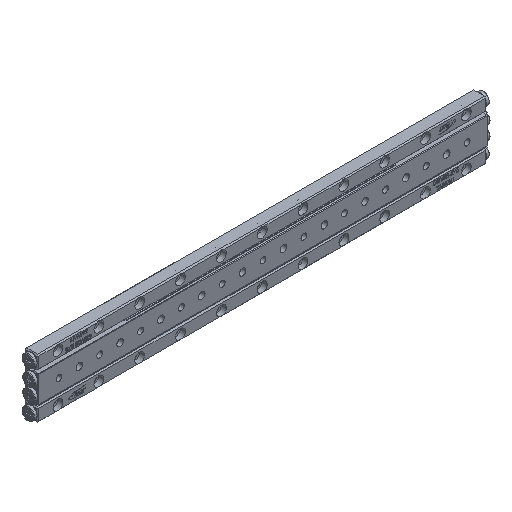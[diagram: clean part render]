
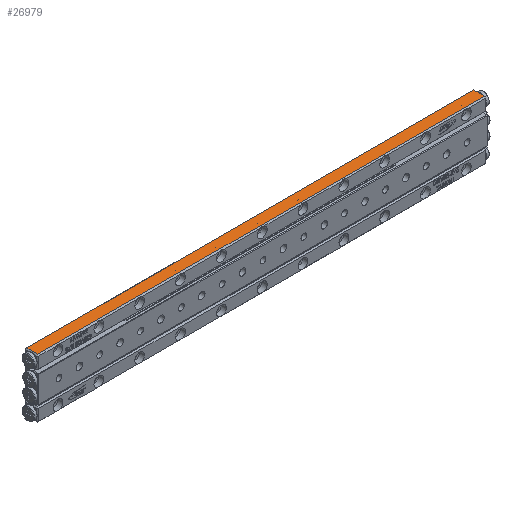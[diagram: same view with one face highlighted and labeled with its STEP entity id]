
A CAD part, isometric view. The second image highlights one B-rep face of the part: STEP entity #26979.
In plain terms, the highlighted planar face has unit normal (0, 0, 1) as drawn and (0, 0, -1) by its records, which use the part's own axes.
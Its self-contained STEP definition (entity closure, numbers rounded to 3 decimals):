
#16 = CARTESIAN_POINT ( 'NONE',  ( 137.5, -3.3, 0. ) ) ;
#621 = ORIENTED_EDGE ( 'NONE', *, *, #12827, .T. ) ;
#806 = CARTESIAN_POINT ( 'NONE',  ( 137.5, 3.3, 0. ) ) ;
#1626 = VERTEX_POINT ( 'NONE', #25415 ) ;
#1853 = VECTOR ( 'NONE', #4558, 1000. ) ;
#2352 = EDGE_CURVE ( 'NONE', #3551, #6176, #7359, .T. ) ;
#2871 = EDGE_CURVE ( 'NONE', #32626, #1626, #9765, .T. ) ;
#2908 = CARTESIAN_POINT ( 'NONE',  ( 137.5, 4., 0. ) ) ;
#3551 = VERTEX_POINT ( 'NONE', #5126 ) ;
#4558 = DIRECTION ( 'NONE',  ( 0., -1., 0. ) ) ;
#5126 = CARTESIAN_POINT ( 'NONE',  ( -136.8, -3.3, 0. ) ) ;
#5730 = VECTOR ( 'NONE', #8507, 1000. ) ;
#6176 = VERTEX_POINT ( 'NONE', #20711 ) ;
#7359 = LINE ( 'NONE', #17595, #12558 ) ;
#8164 = ORIENTED_EDGE ( 'NONE', *, *, #24461, .T. ) ;
#8231 = DIRECTION ( 'NONE',  ( -1., 0., 0. ) ) ;
#8507 = DIRECTION ( 'NONE',  ( 1., 0., 0. ) ) ;
#9765 = LINE ( 'NONE', #24728, #1853 ) ;
#11286 = ORIENTED_EDGE ( 'NONE', *, *, #2352, .T. ) ;
#12558 = VECTOR ( 'NONE', #27840, 1000. ) ;
#12827 = EDGE_CURVE ( 'NONE', #1626, #3551, #31243, .T. ) ;
#13214 = ORIENTED_EDGE ( 'NONE', *, *, #2871, .T. ) ;
#15485 = AXIS2_PLACEMENT_3D ( 'NONE', #2908, #28097, #18019 ) ;
#17595 = CARTESIAN_POINT ( 'NONE',  ( -136.8, 4., 0. ) ) ;
#17615 = CARTESIAN_POINT ( 'NONE',  ( 136.8, 3.3, 0. ) ) ;
#17845 = PLANE ( 'NONE',  #15485 ) ;
#18019 = DIRECTION ( 'NONE',  ( 1., 0., 0. ) ) ;
#18145 = VECTOR ( 'NONE', #8231, 1000. ) ;
#18187 = FACE_OUTER_BOUND ( 'NONE', #25458, .T. ) ;
#20711 = CARTESIAN_POINT ( 'NONE',  ( -136.8, 3.3, 0. ) ) ;
#24461 = EDGE_CURVE ( 'NONE', #6176, #32626, #26305, .T. ) ;
#24728 = CARTESIAN_POINT ( 'NONE',  ( 136.8, -4., 0. ) ) ;
#25415 = CARTESIAN_POINT ( 'NONE',  ( 136.8, -3.3, 0. ) ) ;
#25458 = EDGE_LOOP ( 'NONE', ( #621, #11286, #8164, #13214 ) ) ;
#26305 = LINE ( 'NONE', #806, #5730 ) ;
#26979 = ADVANCED_FACE ( 'NONE', ( #18187 ), #17845, .F. ) ;
#27840 = DIRECTION ( 'NONE',  ( 0., 1., 0. ) ) ;
#28097 = DIRECTION ( 'NONE',  ( 0., 0., 1. ) ) ;
#31243 = LINE ( 'NONE', #16, #18145 ) ;
#32626 = VERTEX_POINT ( 'NONE', #17615 ) ;
